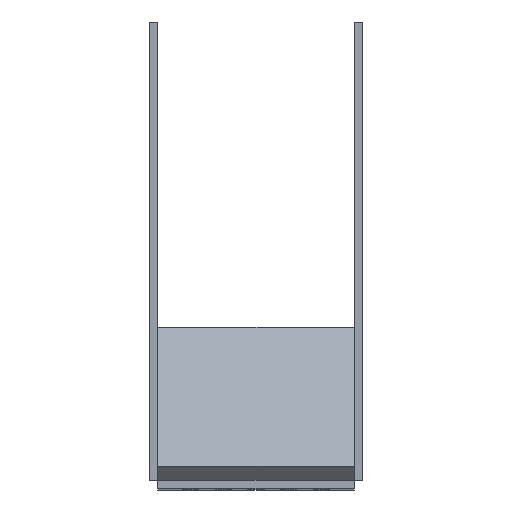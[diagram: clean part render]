
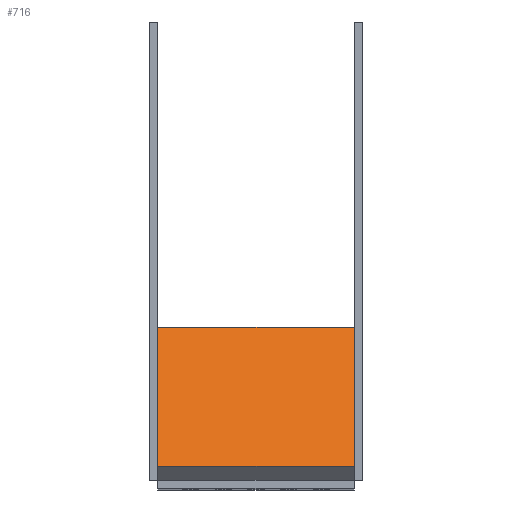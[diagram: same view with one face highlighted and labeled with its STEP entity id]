
A CAD part, top view. The second image highlights one B-rep face of the part: STEP entity #716.
In plain terms, the highlighted planar face has unit normal (0, 0.706, 0.709) as drawn and (0, 0.669, 0.743) by its records, which use the part's own axes.
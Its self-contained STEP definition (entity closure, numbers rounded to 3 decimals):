
#30 = EDGE_CURVE ( 'NONE', #2247, #135, #1391, .T. ) ;
#135 = VERTEX_POINT ( 'NONE', #977 ) ;
#167 = CARTESIAN_POINT ( 'NONE',  ( -60., 27.78, 12.368 ) ) ;
#173 = CARTESIAN_POINT ( 'NONE',  ( -60., 72.368, -27.78 ) ) ;
#296 = ORIENTED_EDGE ( 'NONE', *, *, #30, .T. ) ;
#324 = EDGE_CURVE ( 'NONE', #2900, #2247, #394, .T. ) ;
#394 = LINE ( 'NONE', #2517, #3078 ) ;
#404 = EDGE_CURVE ( 'NONE', #830, #135, #861, .T. ) ;
#577 = DIRECTION ( 'NONE',  ( 0., -0.743, 0.669 ) ) ;
#669 = LINE ( 'NONE', #1803, #2424 ) ;
#716 = ADVANCED_FACE ( 'NONE', ( #1384 ), #1935, .T. ) ;
#830 = VERTEX_POINT ( 'NONE', #2442 ) ;
#861 = LINE ( 'NONE', #2559, #2270 ) ;
#977 = CARTESIAN_POINT ( 'NONE',  ( 0., 27.78, 12.368 ) ) ;
#1104 = ORIENTED_EDGE ( 'NONE', *, *, #2746, .F. ) ;
#1126 = CARTESIAN_POINT ( 'NONE',  ( -60., 72.368, -27.78 ) ) ;
#1384 = FACE_OUTER_BOUND ( 'NONE', #2022, .T. ) ;
#1391 = LINE ( 'NONE', #167, #2697 ) ;
#1647 = ORIENTED_EDGE ( 'NONE', *, *, #324, .T. ) ;
#1803 = CARTESIAN_POINT ( 'NONE',  ( -60., 72.368, -27.78 ) ) ;
#1935 = PLANE ( 'NONE',  #2729 ) ;
#2022 = EDGE_LOOP ( 'NONE', ( #3127, #1104, #1647, #296 ) ) ;
#2053 = DIRECTION ( 'NONE',  ( 1., 0., 0. ) ) ;
#2160 = DIRECTION ( 'NONE',  ( 0., 0.669, 0.743 ) ) ;
#2219 = CARTESIAN_POINT ( 'NONE',  ( -60., 27.78, 12.368 ) ) ;
#2247 = VERTEX_POINT ( 'NONE', #2219 ) ;
#2270 = VECTOR ( 'NONE', #577, 1000. ) ;
#2424 = VECTOR ( 'NONE', #2053, 1000. ) ;
#2442 = CARTESIAN_POINT ( 'NONE',  ( 0., 72.368, -27.78 ) ) ;
#2471 = DIRECTION ( 'NONE',  ( 0., -0.743, 0.669 ) ) ;
#2517 = CARTESIAN_POINT ( 'NONE',  ( -60., 72.368, -27.78 ) ) ;
#2559 = CARTESIAN_POINT ( 'NONE',  ( 0., 72.368, -27.78 ) ) ;
#2625 = DIRECTION ( 'NONE',  ( 1., 0., 0. ) ) ;
#2645 = DIRECTION ( 'NONE',  ( -1., 0., 0. ) ) ;
#2697 = VECTOR ( 'NONE', #2625, 1000. ) ;
#2729 = AXIS2_PLACEMENT_3D ( 'NONE', #173, #2160, #2645 ) ;
#2746 = EDGE_CURVE ( 'NONE', #2900, #830, #669, .T. ) ;
#2900 = VERTEX_POINT ( 'NONE', #1126 ) ;
#3078 = VECTOR ( 'NONE', #2471, 1000. ) ;
#3127 = ORIENTED_EDGE ( 'NONE', *, *, #404, .F. ) ;
